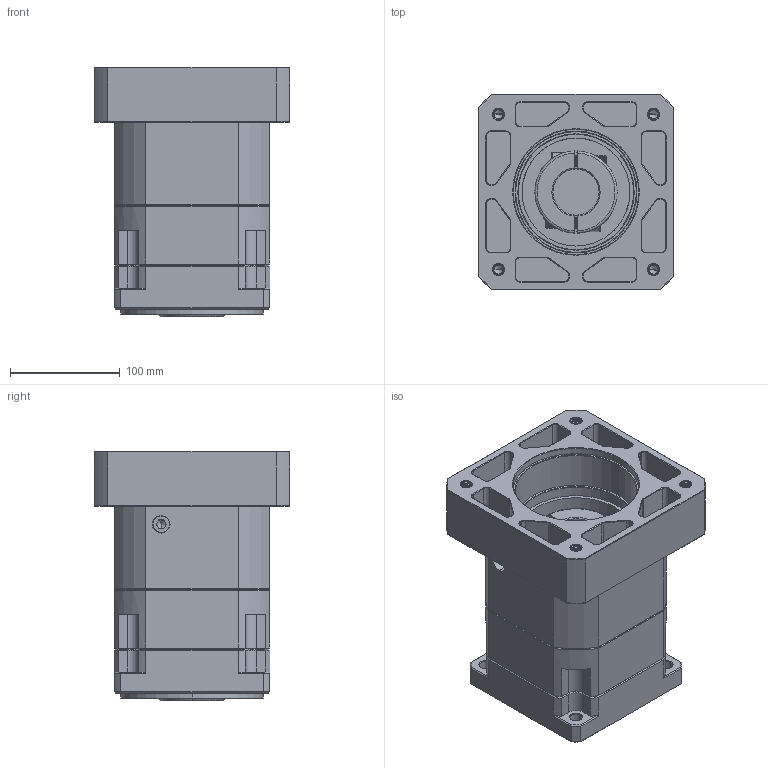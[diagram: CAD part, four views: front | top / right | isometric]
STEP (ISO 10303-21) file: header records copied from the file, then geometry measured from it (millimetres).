
FILE_DESCRIPTION (( 'STEP AP214' ), '1' );
FILE_NAME ('ZB142A-K35-L1-P2-42-114.3-200-M12.step', '2023-09-01T11:46:46', ( '' ), ( '' ), 'SwSTEP 2.0', 'SolidWorks 2016', '' );
FILE_SCHEMA (( 'AUTOMOTIVE_DESIGN' ));
Length unit declared in the file: millimetre
Products named in the file (1): ZB142A-K35-L1-P2-42-114.3-200-M12
Bounding box: 178 x 178 x 227.2 mm (x, y, z)
Volume: 3572433.4 mm3; surface area: 366628.3 mm2
Topology: 6 solids, 6 shells, 2393 faces, 6268 edges, 3989 vertices
Faces by surface type: plane 1183, cylinder 412, bspline 402, cone 376, torus 20
Entity records: 126158 total; most frequent: CARTESIAN_POINT 44001, ORIENTED_EDGE 12480, DIRECTION 10100, EDGE_CURVE 6240, VECTOR 4068, LINE 4068, VERTEX_POINT 3989, AXIS2_PLACEMENT_3D 3016
